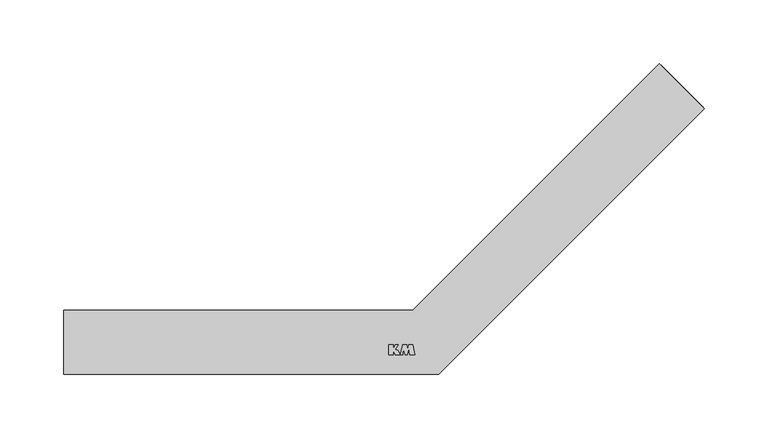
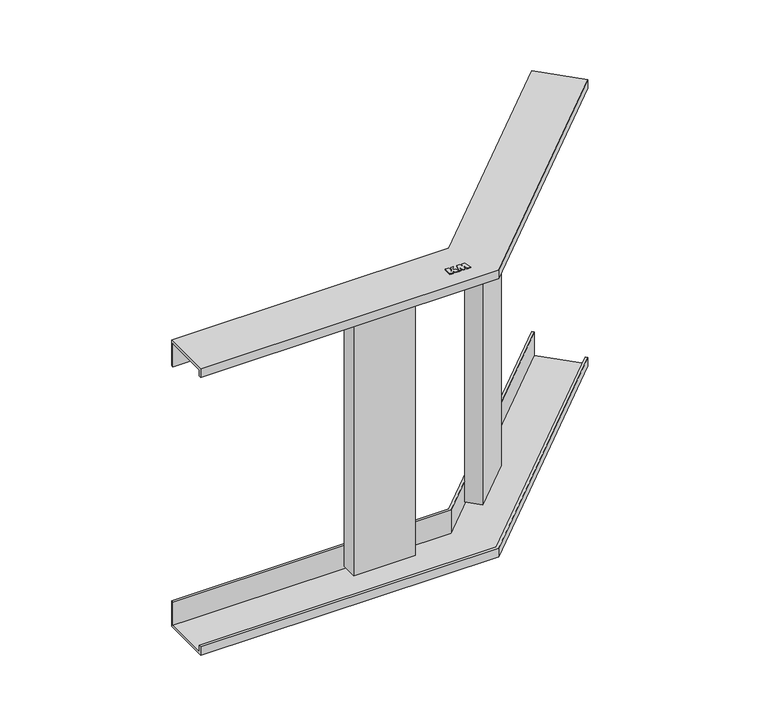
"""IFC4 building model written with IfcOpenShell, lengths in millimetres: cable carrier fitting geometry, КМ Профиль L Угол вертикальный внешний «Быстрый монтаж» 45° : Угол вертикальный внешний «Быстрый монтаж» 45°."""

import ifcopenshell
import ifcopenshell.guid

model = None  # the IFC model being written
_history = None  # IfcOwnerHistory: only IFC2X3 demands one
_inside = {}  # id of a spatial element -> (the spatial element, [elements in it])
_under = {}  # id of a project, library or spatial element -> (it, [spatial elements below it])
_declared = {}  # id of a project -> (the project, [libraries it declares])
_typed = {}  # id of a type object -> (the type object, [elements of that type])
_made_of = {}  # id of a material, layer set ... -> (it, [elements and type objects made of it])


def new_model(schema):
    """Start an empty IFC model of exactly this schema.

    Asked for "IFC4X3", IfcOpenShell would pick the latest addendum, in which some entities
    have other attributes; the version numbers below select the first issue.
    IFC2X3 requires an IfcOwnerHistory on every rooted entity: one is made here for all.
    """
    global model, _history
    if schema == "IFC4X3":
        model = ifcopenshell.file(schema_version=(4, 3, 0, 0))
    else:
        model = ifcopenshell.file(schema=schema)
    _inside.clear()
    _under.clear()
    _declared.clear()
    _typed.clear()
    _made_of.clear()
    _history = None
    if model.schema == "IFC2X3":
        org = make("IfcOrganization", Name="unknown")
        user = make(
            "IfcPersonAndOrganization",
            ThePerson=make("IfcPerson", FamilyName="unknown"),
            TheOrganization=org,
        )
        app = make(
            "IfcApplication",
            ApplicationDeveloper=org,
            Version="unknown",
            ApplicationFullName="unknown",
            ApplicationIdentifier="unknown",
        )
        _history = make(
            "IfcOwnerHistory",
            OwningUser=user,
            OwningApplication=app,
            ChangeAction="ADDED",
            CreationDate=0,
        )
    return model


def make(cls, **values):
    """One entity of the class cls with the attributes given. An attribute that is None is left unset."""
    return model.create_entity(
        cls, **{name: value for name, value in values.items() if value is not None}
    )


def rooted(cls, **values):
    """An entity with a GlobalId (a new one), such as an element, a storey or a relation."""
    return make(cls, GlobalId=ifcopenshell.guid.new(), OwnerHistory=_history, **values)


def si_unit(unit_type, name, prefix=None):
    """IfcSIUnit, for example si_unit("LENGTHUNIT", "METRE", prefix="MILLI")."""
    return make("IfcSIUnit", UnitType=unit_type, Prefix=prefix, Name=name)


def assignment(units):
    """IfcUnitAssignment: the units of a project."""
    return None if units is None else make("IfcUnitAssignment", Units=units)


def point(xyz):
    """IfcCartesianPoint."""
    return None if xyz is None else make("IfcCartesianPoint", Coordinates=xyz)


def direction(xyz):
    """IfcDirection."""
    return None if xyz is None else make("IfcDirection", DirectionRatios=xyz)


def frame(location, z_axis=None, x_axis=None):
    """IfcAxis2Placement3D, a coordinate frame: its origin and axes. An axis left out is left unset."""
    return make(
        "IfcAxis2Placement3D",
        Location=point(location),
        Axis=direction(z_axis),
        RefDirection=direction(x_axis),
    )


def origin():
    """The frame at (0, 0, 0) with its axes left unset."""
    return frame((0.0, 0.0, 0.0))


def place(relative_to, where):
    """IfcLocalPlacement: puts the frame where relative to a parent placement (None: the world)."""
    return make(
        "IfcLocalPlacement", PlacementRelTo=relative_to, RelativePlacement=where
    )


def context(
    kind, dimensions, precision=None, world=None, true_north=None, identifier=None
):
    """IfcGeometricRepresentationContext, for example the 3D "Model" context."""
    return make(
        "IfcGeometricRepresentationContext",
        ContextIdentifier=identifier,
        ContextType=kind,
        CoordinateSpaceDimension=dimensions,
        Precision=precision,
        WorldCoordinateSystem=world,
        TrueNorth=true_north,
    )


def project(units=None, contexts=None):
    """IfcProject with its units and contexts."""
    return rooted(
        "IfcProject",
        Name="project",
        RepresentationContexts=contexts,
        UnitsInContext=assignment(units),
    )


def spatial(cls, under=None, at=None, **own):
    """A site, building, storey or space (cls), placed at a placement, below another one or the project."""
    s = rooted(cls, ObjectPlacement=at, **own)
    if under is not None:
        _under.setdefault(under.id(), (under, []))[1].append(s)
    return s


def polyline(points):
    """IfcPolyline through the points."""
    return make("IfcPolyline", Points=[point(p) for p in points])


def outline(outer, holes=None, kind="AREA"):
    """IfcArbitraryClosedProfileDef: a profile drawn as a closed curve; with holes, ...WithVoids."""
    if holes is None:
        return make("IfcArbitraryClosedProfileDef", ProfileType=kind, OuterCurve=outer)
    return make(
        "IfcArbitraryProfileDefWithVoids",
        ProfileType=kind,
        OuterCurve=outer,
        InnerCurves=holes,
    )


def extrude(swept, where, along, depth):
    """IfcExtrudedAreaSolid: the profile swept, set in the frame where, extruded along a direction by depth."""
    return make(
        "IfcExtrudedAreaSolid",
        SweptArea=swept,
        Position=where,
        ExtrudedDirection=direction(along),
        Depth=depth,
    )


def faces_of(points, faces, orient=None, outer=None):
    """IfcFace entities. A face is a list of loops; a loop is a list of indices into points, from 0.

    orient and outer hold one flag for each loop. By default every Orientation is true, the
    first loop of a face is its IfcFaceOuterBound and the others are IfcFaceBound.
    """
    made = []
    for i, loops in enumerate(faces):
        bounds = []
        for j, loop in enumerate(loops):
            is_outer = j == 0 if outer is None else outer[i][j]
            bounds.append(
                make(
                    "IfcFaceOuterBound" if is_outer else "IfcFaceBound",
                    Bound=make("IfcPolyLoop", Polygon=[points[k] for k in loop]),
                    Orientation=True if orient is None else orient[i][j],
                )
            )
        made.append(make("IfcFace", Bounds=bounds))
    return made


def faceted_brep(points, faces, orient=None, outer=None, voids=None):
    """IfcFacetedBrep: a solid bounded by flat faces; with voids (closed shells), ...WithVoids."""
    shared = [point(p) for p in points]
    hull = make("IfcClosedShell", CfsFaces=faces_of(shared, faces, orient, outer))
    if voids is None:
        return make("IfcFacetedBrep", Outer=hull)
    return make(
        "IfcFacetedBrepWithVoids",
        Outer=hull,
        Voids=[
            make(cls, CfsFaces=faces_of(shared, fs, o, b)) for cls, fs, o, b in voids
        ],
    )


def shape(context_of_items, identifier, shape_type, items):
    """IfcShapeRepresentation: the items that make up one representation, for example the "Body"."""
    return make(
        "IfcShapeRepresentation",
        ContextOfItems=context_of_items,
        RepresentationIdentifier=identifier,
        RepresentationType=shape_type,
        Items=items,
    )


def source(mapping_origin, context_of_items, identifier, shape_type, items):
    """IfcRepresentationMap: a shape defined once, which mapped items show again and again."""
    return make(
        "IfcRepresentationMap",
        MappingOrigin=mapping_origin,
        MappedRepresentation=shape(context_of_items, identifier, shape_type, items),
    )


def transform(
    local_origin,
    x_axis=None,
    y_axis=None,
    z_axis=None,
    scale=None,
    scale2=None,
    scale3=None,
    uniform=True,
):
    """IfcCartesianTransformationOperator3D, or its non-uniform kind. x_axis, y_axis, z_axis: its Axis1, 2, 3."""
    if uniform:
        return make(
            "IfcCartesianTransformationOperator3D",
            Axis1=direction(x_axis),
            Axis2=direction(y_axis),
            LocalOrigin=point(local_origin),
            Scale=scale,
            Axis3=direction(z_axis),
        )
    return make(
        "IfcCartesianTransformationOperator3DnonUniform",
        Axis1=direction(x_axis),
        Axis2=direction(y_axis),
        LocalOrigin=point(local_origin),
        Scale=scale,
        Axis3=direction(z_axis),
        Scale2=scale2,
        Scale3=scale3,
    )


def mapped(mapping_source, mapping_target):
    """IfcMappedItem: shows the shape of a source again, moved by a transform."""
    return make(
        "IfcMappedItem", MappingSource=mapping_source, MappingTarget=mapping_target
    )


def made_of(thing, what):
    """Note that an element or type object is made of a material, layer set ...; save() writes the relation."""
    if what is not None:
        _made_of.setdefault(what.id(), (what, []))[1].append(thing)
    return thing


def element(
    cls,
    number,
    at=None,
    inside=None,
    cuts=None,
    type_object=None,
    material=None,
    context=None,
    identifier="Body",
    shape_type=None,
    held_by="IfcProductDefinitionShape",
    body=None,
    shapes=None,
    **own,
):
    """One element of the class cls, such as IfcWall. Its Tag is "e" and its number.

    at: its placement. inside: the storey or other place that contains it. cuts: it is an
    opening in that element (IfcRelVoidsElement). A single representation is given by context,
    identifier, shape_type and body (its items); several are given by shapes. held_by: the class
    of the entity that holds the representations. save() writes the other relations.
    """
    e = rooted(cls, Tag="e%d" % number, ObjectPlacement=at, **own)
    if body is not None:
        shapes = [shape(context, identifier, shape_type, body)]
    if shapes is not None:
        e.Representation = make(held_by, Representations=shapes)
    if inside is not None:
        _inside.setdefault(inside.id(), (inside, []))[1].append(e)
    if cuts is not None:
        rooted(
            "IfcRelVoidsElement", RelatingBuildingElement=cuts, RelatedOpeningElement=e
        )
    if type_object is not None:
        _typed.setdefault(type_object.id(), (type_object, []))[1].append(e)
    return made_of(e, material)


def aggregate(whole, parts):
    """IfcRelAggregates: a whole, such as a stair, and the parts it consists of."""
    return rooted("IfcRelAggregates", RelatingObject=whole, RelatedObjects=parts)


def save(model, path):
    """Write the relations noted so far, then the file.

    IfcRelAggregates (storeys below a building ...), IfcRelContainedInSpatialStructure (elements
    in a storey), IfcRelDefinesByType, IfcRelAssociatesMaterial and IfcRelDeclares: one each for
    every whole, place, type object, material and project.
    """
    for whole, parts in _under.values():
        aggregate(whole, parts)
    for where, things in _inside.values():
        rooted(
            "IfcRelContainedInSpatialStructure",
            RelatedElements=things,
            RelatingStructure=where,
        )
    for kind, things in _typed.values():
        rooted("IfcRelDefinesByType", RelatedObjects=things, RelatingType=kind)
    for what, things in _made_of.values():
        rooted("IfcRelAssociatesMaterial", RelatedObjects=things, RelatingMaterial=what)
    for by, libraries in _declared.values():
        rooted("IfcRelDeclares", RelatingContext=by, RelatedDefinitions=libraries)
    model.write(path)


def cable_carrier_fitting_76a80729(model_context):
    return source(origin(), model_context, "Body", "SolidModel", [
        extrude(outline(polyline([(-29.2388781, -1.986157), (-25.7316192, -1.986157), (-25.7316192, -5.564509), (-23.8289757, -1.986157), (-21.703011, -1.986157), (-24.1694955, -5.5086619), (-21.9277444, -6.194034), (-20.0604353, -9.737421), (-23.9588467, -9.737421), (-25.6630512, -6.5720802), (-25.6630512, -9.737421), (-29.2388781, -9.737421), (-29.2388781, -1.986157)])), frame((0.0, 0.0, 150.0), z_axis=(0.0, 0.0, 1.0), x_axis=(1.0, 0.0, 0.0)), (0.0, 0.0, 1.0), 0.8),
        extrude(outline(polyline([(-17.9962759, -9.737421), (-19.8943395, -9.737421), (-18.0740589, -1.9647569), (-15.0433304, -1.9647569), (-14.2768297, -5.0390232), (-13.2555223, -1.9623682), (-10.0615674, -1.9623682), (-8.8700699, -9.7429915), (-12.7725105, -9.7429915), (-13.2500032, -5.0541919), (-14.7300717, -9.7434681), (-16.2045824, -9.7434681), (-17.6126012, -5.0696135), (-17.9962759, -9.737421)])), frame((0.0, 0.0, 150.0), z_axis=(0.0, 0.0, 1.0), x_axis=(1.0, 0.0, 0.0)), (0.0, 0.0, 1.0), 0.8),
        extrude(outline(polyline([(-54.1446609, 22.5), (-54.1446609, 6.5), (-115.1446609, 6.5), (-115.1446609, 22.5), (-54.1446609, 22.5)])), frame((0.0, 0.0, -145.0), z_axis=(0.0, 0.0, 1.0), x_axis=(1.0, 0.0, 0.0)), (0.0, 0.0, 1.0), 290.0),
        extrude(outline(polyline([(65.509668, 97.3294731), (76.8233765, 86.0157646), (33.6898628, 42.882251), (22.3761543, 54.1959595), (65.509668, 97.3294731)])), frame((0.0, 0.0, -145.0), z_axis=(0.0, 0.0, 1.0), x_axis=(1.0, 0.0, 0.0)), (0.0, 0.0, 1.0), 290.0),
        faceted_brep([(-284.6446609, 25.0, 123.0), (-284.6446609, 22.5, 123.0), (-284.6446609, 22.5, 147.5), (-284.6446609, -22.5, 147.5), (-284.6446609, -22.5, 141.0), (-284.6446609, -25.0, 141.0), (-284.6446609, -25.0, 150.0), (-284.6446609, 25.0, 150.0), (-10.3553391, 25.0, 123.0), (183.5965005, 218.9518395, 123.0), (185.3642674, 217.1840726, 123.0), (-9.3198052, 22.5, 123.0), (-9.3198052, 22.5, 147.5), (185.3642674, 217.1840726, 147.5), (217.1840726, 185.3642674, 147.5), (9.3198052, -22.5, 147.5), (9.3198052, -22.5, 141.0), (217.1840726, 185.3642674, 141.0), (218.9518395, 183.5965005, 141.0), (10.3553391, -25.0, 141.0), (10.3553391, -25.0, 150.0), (218.9518395, 183.5965005, 150.0), (183.5965005, 218.9518395, 150.0), (-10.3553391, 25.0, 150.0)], [[[0, 1, 2, 3, 4, 5, 6, 7]], [[1, 0, 8, 9, 10, 11]], [[2, 1, 11, 12]], [[3, 2, 12, 13, 14, 15]], [[4, 3, 15, 16]], [[5, 4, 16, 17, 18, 19]], [[6, 5, 19, 20]], [[7, 6, 20, 21, 22, 23]], [[0, 7, 23, 8]], [[9, 22, 21, 18, 17, 14, 13, 10]], [[12, 11, 10, 13]], [[16, 15, 14, 17]], [[20, 19, 18, 21]], [[8, 23, 22, 9]]]),
        faceted_brep([(-284.6446609, 25.0, -123.0), (-284.6446609, 25.0, -150.0), (-284.6446609, -25.0, -150.0), (-284.6446609, -25.0, -141.0), (-284.6446609, -22.5, -141.0), (-284.6446609, -22.5, -147.5), (-284.6446609, 22.5, -147.5), (-284.6446609, 22.5, -123.0), (-10.3553391, 25.0, -123.0), (-10.3553391, 25.0, -150.0), (183.5965005, 218.9518395, -150.0), (218.9518395, 183.5965005, -150.0), (10.3553391, -25.0, -150.0), (10.3553391, -25.0, -141.0), (218.9518395, 183.5965005, -141.0), (217.1840726, 185.3642674, -141.0), (9.3198052, -22.5, -141.0), (9.3198052, -22.5, -147.5), (217.1840726, 185.3642674, -147.5), (185.3642674, 217.1840726, -147.5), (-9.3198052, 22.5, -147.5), (-9.3198052, 22.5, -123.0), (185.3642674, 217.1840726, -123.0), (183.5965005, 218.9518395, -123.0)], [[[0, 1, 2, 3, 4, 5, 6, 7]], [[1, 0, 8, 9]], [[2, 1, 9, 10, 11, 12]], [[3, 2, 12, 13]], [[4, 3, 13, 14, 15, 16]], [[5, 4, 16, 17]], [[6, 5, 17, 18, 19, 20]], [[7, 6, 20, 21]], [[0, 7, 21, 22, 23, 8]], [[23, 22, 19, 18, 15, 14, 11, 10]], [[9, 8, 23, 10]], [[13, 12, 11, 14]], [[17, 16, 15, 18]], [[21, 20, 19, 22]]]),
    ])


if __name__ == "__main__":
    model = new_model("IFC4")
    model_context = context("Model", 3, world=origin())
    ifc_project = project(units=[si_unit("LENGTHUNIT", "METRE", prefix="MILLI")], contexts=[model_context])
    site = spatial("IfcSite", under=ifc_project)
    building = spatial("IfcBuilding", under=site)
    placement = place(None, origin())
    cable_carrier_fitting_shape = cable_carrier_fitting_76a80729(model_context)
    element("IfcCableCarrierFitting", 1, ObjectType="КМ Профиль L Угол вертикальный внешний «Быстрый монтаж» 45° : Угол вертикальный внешний «Быстрый монтаж» 45°", at=placement, inside=building, context=model_context, shape_type="MappedRepresentation", body=[
        mapped(cable_carrier_fitting_shape, transform((0.0, 0.0, 0.0), x_axis=(1.0, 0.0, 0.0), y_axis=(0.0, 1.0, 0.0), z_axis=(0.0, 0.0, 1.0))),
    ])
    save(model, "model.ifc")
